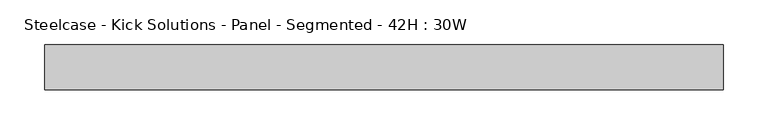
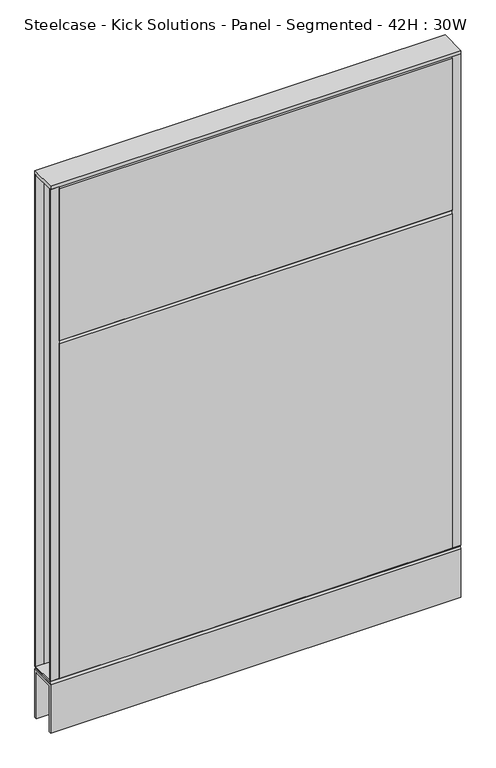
"""IFC4 building model written with IfcOpenShell, lengths in millimetres: furniture geometry, Steelcase - Kick Solutions - Panel - Segmented - 42H : 30W."""

from ifc_helpers import new_model, si_unit, frame, origin, place, context, project, spatial, polyline, outline, extrude, source, transform, mapped, element, save


def steelcase_kick_solutions_panel_segmented_42h_30w_a935c3d2(model_context):
    return source(origin(), model_context, "Body", "SweptSolid", [
        extrude(outline(polyline([(1.5e-06, 101.600003), (-3.175, 101.600003), (-3.175, 1066.8), (1.5e-06, 1063.7188448), (1.5e-06, 101.600003)])), frame((15.8749996, 0.0, 0.0), z_axis=(1.0, 0.0, 0.0), x_axis=(0.0, 1.0, 0.0)), (0.0, 0.0, 1.0), 730.2500008),
        extrude(outline(polyline([(-50.8000015, 765.0811552), (-50.8000015, 1063.7188448), (-47.625, 1066.8), (-47.625, 762.0), (-50.8000015, 765.0811552)])), frame((15.8749996, 0.0, 0.0), z_axis=(1.0, 0.0, 0.0), x_axis=(0.0, 1.0, 0.0)), (0.0, 0.0, 1.0), 730.2500008),
        extrude(outline(polyline([(-50.8000015, 101.600003), (-50.8000015, 758.9188448), (-47.625, 762.0), (-47.625, 101.600003), (-50.8000015, 101.600003)])), frame((15.8749996, 0.0, 0.0), z_axis=(1.0, 0.0, 0.0), x_axis=(0.0, 1.0, 0.0)), (0.0, 0.0, 1.0), 730.2500008),
        extrude(outline(polyline([(762.0, -3.1750015), (746.1250004, -3.1750015), (746.1250004, 0.0), (762.0, 0.0), (762.0, -3.1750015)])), frame((0.0, 0.0, 101.7169049), z_axis=(0.0, 0.0, 1.0), x_axis=(1.0, 0.0, 0.0)), (0.0, 0.0, 1.0), 965.199997),
        extrude(outline(polyline([(15.8749996, -50.8000015), (0.0, -50.8000015), (0.0, -47.625), (15.8749996, -47.625), (15.8749996, -50.8000015)])), frame((0.0, 0.0, 101.7169049), z_axis=(0.0, 0.0, 1.0), x_axis=(1.0, 0.0, 0.0)), (0.0, 0.0, 1.0), 965.199997),
        extrude(outline(polyline([(-50.7995075, 101.7169049), (-0.000494, 101.7169049), (-3.0583512, 98.5421458), (-47.7416503, 98.5421458), (-50.7995075, 101.7169049)])), frame((0.0, 0.0, 0.0), z_axis=(1.0, 0.0, 0.0), x_axis=(0.0, 1.0, 0.0)), (0.0, 0.0, 1.0), 762.0),
        extrude(outline(polyline([(762.0, 0.0), (762.0, -50.8000015), (0.0, -50.8000015), (0.0, 0.0), (762.0, 0.0)])), frame((0.0, 0.0, 1066.9169018), z_axis=(0.0, 0.0, 1.0), x_axis=(1.0, 0.0, 0.0)), (0.0, 0.0, 1.0), 6.35),
        extrude(outline(polyline([(15.8749996, -3.1750015), (0.0, -3.1750015), (0.0, 0.0), (15.8749996, 0.0), (15.8749996, -3.1750015)])), frame((0.0, 0.0, 101.7169049), z_axis=(0.0, 0.0, 1.0), x_axis=(1.0, 0.0, 0.0)), (0.0, 0.0, 1.0), 965.199997),
        extrude(outline(polyline([(762.0, -50.8000015), (746.1250004, -50.8000015), (746.1250004, -47.625), (762.0, -47.625), (762.0, -50.8000015)])), frame((0.0, 0.0, 101.7169049), z_axis=(0.0, 0.0, 1.0), x_axis=(1.0, 0.0, 0.0)), (0.0, 0.0, 1.0), 965.199997),
        extrude(outline(polyline([(-50.8000015, 95.3668927), (-47.6247484, 98.5421458), (-3.1752531, 98.5421458), (0.0, 95.3668927), (-50.8000015, 95.3668927)])), frame((0.0, 0.0, 0.0), z_axis=(1.0, 0.0, 0.0), x_axis=(0.0, 1.0, 0.0)), (0.0, 0.0, 1.0), 762.0),
        extrude(outline(polyline([(0.0, 0.0), (-5.08, 0.0), (-5.08, 90.2869018), (-45.7200015, 90.2869018), (-45.7200015, 0.0), (-50.8000015, 0.0), (-50.8000015, 95.3669018), (0.0, 95.3669018), (0.0, 0.0)])), frame((0.0, 0.0, 0.0), z_axis=(1.0, 0.0, 0.0), x_axis=(0.0, 1.0, 0.0)), (0.0, 0.0, 1.0), 762.0),
    ])


if __name__ == "__main__":
    model = new_model("IFC4")
    model_context = context("Model", 3, world=origin())
    ifc_project = project(units=[si_unit("LENGTHUNIT", "METRE", prefix="MILLI")], contexts=[model_context])
    site = spatial("IfcSite", under=ifc_project)
    building = spatial("IfcBuilding", under=site)
    placement = place(None, origin())
    steelcase_kick_solutions_panel_segmented_42h_30w_shape = steelcase_kick_solutions_panel_segmented_42h_30w_a935c3d2(model_context)
    element("IfcFurniture", 1, ObjectType="Steelcase - Kick Solutions - Panel - Segmented - 42H : 30W", at=placement, inside=building, context=model_context, shape_type="MappedRepresentation", body=[
        mapped(steelcase_kick_solutions_panel_segmented_42h_30w_shape, transform((0.0, 0.0, 0.0), x_axis=(1.0, 0.0, 0.0), y_axis=(0.0, 1.0, 0.0), z_axis=(0.0, 0.0, 1.0))),
    ])
    save(model, "model.ifc")
